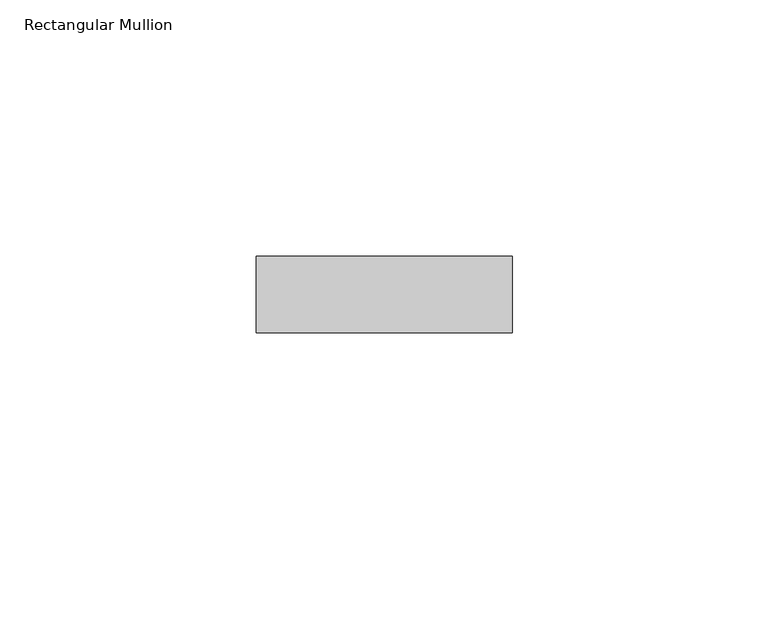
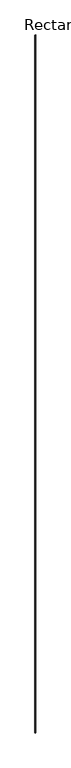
"""IFC4 building model written with IfcOpenShell, lengths in millimetres: member geometry, Rectangular Mullion : Ripa."""

import ifcopenshell
import ifcopenshell.guid

model = None  # the IFC model being written
_history = None  # IfcOwnerHistory: only IFC2X3 demands one
_inside = {}  # id of a spatial element -> (the spatial element, [elements in it])
_under = {}  # id of a project, library or spatial element -> (it, [spatial elements below it])
_declared = {}  # id of a project -> (the project, [libraries it declares])
_typed = {}  # id of a type object -> (the type object, [elements of that type])
_made_of = {}  # id of a material, layer set ... -> (it, [elements and type objects made of it])


def new_model(schema):
    """Start an empty IFC model of exactly this schema.

    Asked for "IFC4X3", IfcOpenShell would pick the latest addendum, in which some entities
    have other attributes; the version numbers below select the first issue.
    IFC2X3 requires an IfcOwnerHistory on every rooted entity: one is made here for all.
    """
    global model, _history
    if schema == "IFC4X3":
        model = ifcopenshell.file(schema_version=(4, 3, 0, 0))
    else:
        model = ifcopenshell.file(schema=schema)
    _inside.clear()
    _under.clear()
    _declared.clear()
    _typed.clear()
    _made_of.clear()
    _history = None
    if model.schema == "IFC2X3":
        org = make("IfcOrganization", Name="unknown")
        user = make(
            "IfcPersonAndOrganization",
            ThePerson=make("IfcPerson", FamilyName="unknown"),
            TheOrganization=org,
        )
        app = make(
            "IfcApplication",
            ApplicationDeveloper=org,
            Version="unknown",
            ApplicationFullName="unknown",
            ApplicationIdentifier="unknown",
        )
        _history = make(
            "IfcOwnerHistory",
            OwningUser=user,
            OwningApplication=app,
            ChangeAction="ADDED",
            CreationDate=0,
        )
    return model


def make(cls, **values):
    """One entity of the class cls with the attributes given. An attribute that is None is left unset."""
    return model.create_entity(
        cls, **{name: value for name, value in values.items() if value is not None}
    )


def rooted(cls, **values):
    """An entity with a GlobalId (a new one), such as an element, a storey or a relation."""
    return make(cls, GlobalId=ifcopenshell.guid.new(), OwnerHistory=_history, **values)


def si_unit(unit_type, name, prefix=None):
    """IfcSIUnit, for example si_unit("LENGTHUNIT", "METRE", prefix="MILLI")."""
    return make("IfcSIUnit", UnitType=unit_type, Prefix=prefix, Name=name)


def assignment(units):
    """IfcUnitAssignment: the units of a project."""
    return None if units is None else make("IfcUnitAssignment", Units=units)


def point(xyz):
    """IfcCartesianPoint."""
    return None if xyz is None else make("IfcCartesianPoint", Coordinates=xyz)


def direction(xyz):
    """IfcDirection."""
    return None if xyz is None else make("IfcDirection", DirectionRatios=xyz)


def frame(location, z_axis=None, x_axis=None):
    """IfcAxis2Placement3D, a coordinate frame: its origin and axes. An axis left out is left unset."""
    return make(
        "IfcAxis2Placement3D",
        Location=point(location),
        Axis=direction(z_axis),
        RefDirection=direction(x_axis),
    )


def origin():
    """The frame at (0, 0, 0) with its axes left unset."""
    return frame((0.0, 0.0, 0.0))


def place(relative_to, where):
    """IfcLocalPlacement: puts the frame where relative to a parent placement (None: the world)."""
    return make(
        "IfcLocalPlacement", PlacementRelTo=relative_to, RelativePlacement=where
    )


def context(
    kind, dimensions, precision=None, world=None, true_north=None, identifier=None
):
    """IfcGeometricRepresentationContext, for example the 3D "Model" context."""
    return make(
        "IfcGeometricRepresentationContext",
        ContextIdentifier=identifier,
        ContextType=kind,
        CoordinateSpaceDimension=dimensions,
        Precision=precision,
        WorldCoordinateSystem=world,
        TrueNorth=true_north,
    )


def project(units=None, contexts=None):
    """IfcProject with its units and contexts."""
    return rooted(
        "IfcProject",
        Name="project",
        RepresentationContexts=contexts,
        UnitsInContext=assignment(units),
    )


def spatial(cls, under=None, at=None, **own):
    """A site, building, storey or space (cls), placed at a placement, below another one or the project."""
    s = rooted(cls, ObjectPlacement=at, **own)
    if under is not None:
        _under.setdefault(under.id(), (under, []))[1].append(s)
    return s


def polyline(points):
    """IfcPolyline through the points."""
    return make("IfcPolyline", Points=[point(p) for p in points])


def outline(outer, holes=None, kind="AREA"):
    """IfcArbitraryClosedProfileDef: a profile drawn as a closed curve; with holes, ...WithVoids."""
    if holes is None:
        return make("IfcArbitraryClosedProfileDef", ProfileType=kind, OuterCurve=outer)
    return make(
        "IfcArbitraryProfileDefWithVoids",
        ProfileType=kind,
        OuterCurve=outer,
        InnerCurves=holes,
    )


def extrude(swept, where, along, depth):
    """IfcExtrudedAreaSolid: the profile swept, set in the frame where, extruded along a direction by depth."""
    return make(
        "IfcExtrudedAreaSolid",
        SweptArea=swept,
        Position=where,
        ExtrudedDirection=direction(along),
        Depth=depth,
    )


def shape(context_of_items, identifier, shape_type, items):
    """IfcShapeRepresentation: the items that make up one representation, for example the "Body"."""
    return make(
        "IfcShapeRepresentation",
        ContextOfItems=context_of_items,
        RepresentationIdentifier=identifier,
        RepresentationType=shape_type,
        Items=items,
    )


def source(mapping_origin, context_of_items, identifier, shape_type, items):
    """IfcRepresentationMap: a shape defined once, which mapped items show again and again."""
    return make(
        "IfcRepresentationMap",
        MappingOrigin=mapping_origin,
        MappedRepresentation=shape(context_of_items, identifier, shape_type, items),
    )


def transform(
    local_origin,
    x_axis=None,
    y_axis=None,
    z_axis=None,
    scale=None,
    scale2=None,
    scale3=None,
    uniform=True,
):
    """IfcCartesianTransformationOperator3D, or its non-uniform kind. x_axis, y_axis, z_axis: its Axis1, 2, 3."""
    if uniform:
        return make(
            "IfcCartesianTransformationOperator3D",
            Axis1=direction(x_axis),
            Axis2=direction(y_axis),
            LocalOrigin=point(local_origin),
            Scale=scale,
            Axis3=direction(z_axis),
        )
    return make(
        "IfcCartesianTransformationOperator3DnonUniform",
        Axis1=direction(x_axis),
        Axis2=direction(y_axis),
        LocalOrigin=point(local_origin),
        Scale=scale,
        Axis3=direction(z_axis),
        Scale2=scale2,
        Scale3=scale3,
    )


def mapped(mapping_source, mapping_target):
    """IfcMappedItem: shows the shape of a source again, moved by a transform."""
    return make(
        "IfcMappedItem", MappingSource=mapping_source, MappingTarget=mapping_target
    )


def made_of(thing, what):
    """Note that an element or type object is made of a material, layer set ...; save() writes the relation."""
    if what is not None:
        _made_of.setdefault(what.id(), (what, []))[1].append(thing)
    return thing


def element(
    cls,
    number,
    at=None,
    inside=None,
    cuts=None,
    type_object=None,
    material=None,
    context=None,
    identifier="Body",
    shape_type=None,
    held_by="IfcProductDefinitionShape",
    body=None,
    shapes=None,
    **own,
):
    """One element of the class cls, such as IfcWall. Its Tag is "e" and its number.

    at: its placement. inside: the storey or other place that contains it. cuts: it is an
    opening in that element (IfcRelVoidsElement). A single representation is given by context,
    identifier, shape_type and body (its items); several are given by shapes. held_by: the class
    of the entity that holds the representations. save() writes the other relations.
    """
    e = rooted(cls, Tag="e%d" % number, ObjectPlacement=at, **own)
    if body is not None:
        shapes = [shape(context, identifier, shape_type, body)]
    if shapes is not None:
        e.Representation = make(held_by, Representations=shapes)
    if inside is not None:
        _inside.setdefault(inside.id(), (inside, []))[1].append(e)
    if cuts is not None:
        rooted(
            "IfcRelVoidsElement", RelatingBuildingElement=cuts, RelatedOpeningElement=e
        )
    if type_object is not None:
        _typed.setdefault(type_object.id(), (type_object, []))[1].append(e)
    return made_of(e, material)


def aggregate(whole, parts):
    """IfcRelAggregates: a whole, such as a stair, and the parts it consists of."""
    return rooted("IfcRelAggregates", RelatingObject=whole, RelatedObjects=parts)


def save(model, path):
    """Write the relations noted so far, then the file.

    IfcRelAggregates (storeys below a building ...), IfcRelContainedInSpatialStructure (elements
    in a storey), IfcRelDefinesByType, IfcRelAssociatesMaterial and IfcRelDeclares: one each for
    every whole, place, type object, material and project.
    """
    for whole, parts in _under.values():
        aggregate(whole, parts)
    for where, things in _inside.values():
        rooted(
            "IfcRelContainedInSpatialStructure",
            RelatedElements=things,
            RelatingStructure=where,
        )
    for kind, things in _typed.values():
        rooted("IfcRelDefinesByType", RelatedObjects=things, RelatingType=kind)
    for what, things in _made_of.values():
        rooted("IfcRelAssociatesMaterial", RelatedObjects=things, RelatingMaterial=what)
    for by, libraries in _declared.values():
        rooted("IfcRelDeclares", RelatingContext=by, RelatedDefinitions=libraries)
    model.write(path)


def rectangular_mullion_fa7fd158(model_context):
    return source(origin(), model_context, "Body", "SweptSolid", [
        extrude(outline(polyline([(-50.0, -75.0), (-50.0, -60.0), (0.0, -60.0), (0.0, -75.0), (-50.0, -75.0)])), frame((0.0, 0.0, -47920.4270994), z_axis=(0.0, 0.0, 1.0), x_axis=(1.0, 0.0, 0.0)), (0.0, 0.0, 1.0), 47920.4270994),
    ])


if __name__ == "__main__":
    model = new_model("IFC4")
    model_context = context("Model", 3, world=origin())
    ifc_project = project(units=[si_unit("LENGTHUNIT", "METRE", prefix="MILLI")], contexts=[model_context])
    site = spatial("IfcSite", under=ifc_project)
    building = spatial("IfcBuilding", under=site)
    placement = place(None, origin())
    rectangular_mullion_shape = rectangular_mullion_fa7fd158(model_context)
    element("IfcMember", 1, ObjectType="Rectangular Mullion : Ripa", at=placement, inside=building, context=model_context, shape_type="MappedRepresentation", body=[
        mapped(rectangular_mullion_shape, transform((0.0, 0.0, 0.0), x_axis=(1.0, 0.0, 0.0), y_axis=(0.0, 1.0, 0.0), z_axis=(0.0, 0.0, 1.0))),
    ])
    save(model, "model.ifc")
